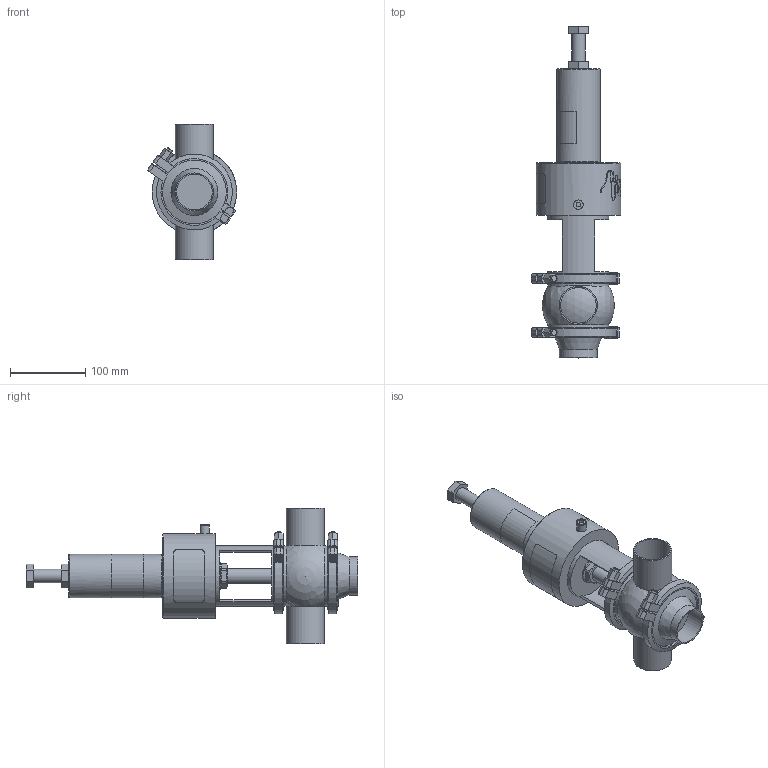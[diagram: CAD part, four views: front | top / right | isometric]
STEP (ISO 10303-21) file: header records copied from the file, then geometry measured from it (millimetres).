
FILE_DESCRIPTION (( 'STEP AP214' ), '1' );
FILE_NAME ('INNOVA J T W OD 2_10.245.16.0002.STEP', '2024-08-08T08:03:46', ( '' ), ( '' ), 'SwSTEP 2.0', 'SolidWorks 2023', '' );
FILE_SCHEMA (( 'AUTOMOTIVE_DESIGN' ));
Length unit declared in the file: millimetre
Products named in the file (6): 10.240.15.0007_OD 2"; 10.247.15.0001_OD 2"; 10.245.15.0001_T2 SE NC_DN 050; 10.240.15.0010_DN 050; INNOVA J T W OD 2_10.245.16.0002; 10.240.15.0001_DN 050
Assembly tree (6 placements, depth 2):
  INNOVA J T W OD 2_10.245.16.0002
    10.240.15.0007_OD 2"
    10.247.15.0001_OD 2"
    10.240.15.0010_DN 050
    10.245.15.0001_T2 SE NC_DN 050
    10.240.15.0001_DN 050  x2
Bounding box: 118.84 x 442 x 180 mm (x, y, z)
Volume: 1769630.8 mm3; surface area: 239818.5 mm2
Topology: 6 solids, 6 shells, 381 faces, 1008 edges, 664 vertices
Faces by surface type: plane 191, cylinder 82, bspline 78, cone 26, sphere 3, torus 1
Full cylindrical faces by diameter (mm): 6.15 x1, 8 x4, 10.5 x1, 12.5 x2, 18 x1, 20 x1, 36.5 x1, 47.5 x3, 50.8 x3, 58 x1, 81 x3, 93 x4, 112.5 x1
Entity records: 20013 total; most frequent: CARTESIAN_POINT 11044, ORIENTED_EDGE 1582, DIRECTION 1195, EDGE_CURVE 791, VERTEX_POINT 544, AXIS2_PLACEMENT_3D 445, EDGE_LOOP 393, FACE_OUTER_BOUND 349
